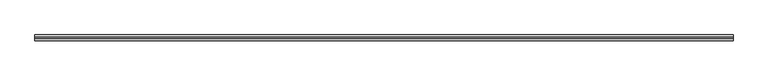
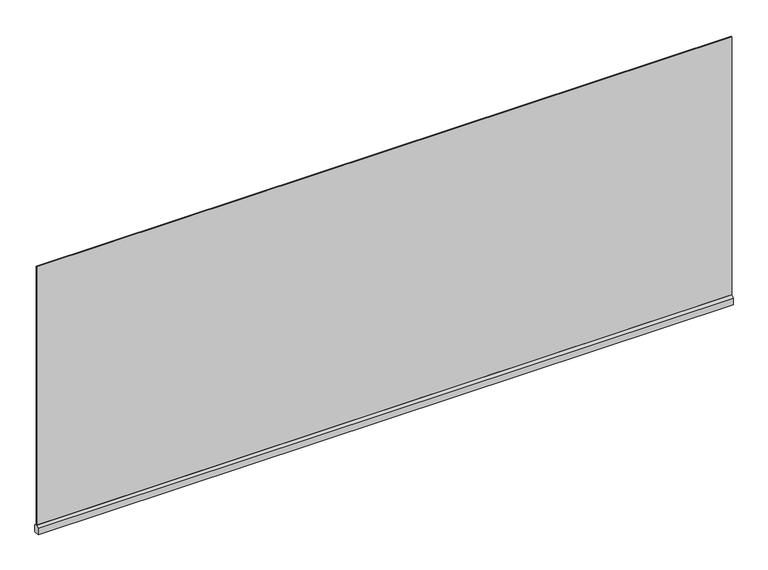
"""IFC4 building model written with IfcOpenShell, lengths in millimetres: proxy geometry, Renson_Amani_Fixscreen : Renson_Amani_Fixscreen."""

import ifcopenshell
import ifcopenshell.guid

model = None  # the IFC model being written
_history = None  # IfcOwnerHistory: only IFC2X3 demands one
_inside = {}  # id of a spatial element -> (the spatial element, [elements in it])
_under = {}  # id of a project, library or spatial element -> (it, [spatial elements below it])
_declared = {}  # id of a project -> (the project, [libraries it declares])
_typed = {}  # id of a type object -> (the type object, [elements of that type])
_made_of = {}  # id of a material, layer set ... -> (it, [elements and type objects made of it])


def new_model(schema):
    """Start an empty IFC model of exactly this schema.

    Asked for "IFC4X3", IfcOpenShell would pick the latest addendum, in which some entities
    have other attributes; the version numbers below select the first issue.
    IFC2X3 requires an IfcOwnerHistory on every rooted entity: one is made here for all.
    """
    global model, _history
    if schema == "IFC4X3":
        model = ifcopenshell.file(schema_version=(4, 3, 0, 0))
    else:
        model = ifcopenshell.file(schema=schema)
    _inside.clear()
    _under.clear()
    _declared.clear()
    _typed.clear()
    _made_of.clear()
    _history = None
    if model.schema == "IFC2X3":
        org = make("IfcOrganization", Name="unknown")
        user = make(
            "IfcPersonAndOrganization",
            ThePerson=make("IfcPerson", FamilyName="unknown"),
            TheOrganization=org,
        )
        app = make(
            "IfcApplication",
            ApplicationDeveloper=org,
            Version="unknown",
            ApplicationFullName="unknown",
            ApplicationIdentifier="unknown",
        )
        _history = make(
            "IfcOwnerHistory",
            OwningUser=user,
            OwningApplication=app,
            ChangeAction="ADDED",
            CreationDate=0,
        )
    return model


def make(cls, **values):
    """One entity of the class cls with the attributes given. An attribute that is None is left unset."""
    return model.create_entity(
        cls, **{name: value for name, value in values.items() if value is not None}
    )


def rooted(cls, **values):
    """An entity with a GlobalId (a new one), such as an element, a storey or a relation."""
    return make(cls, GlobalId=ifcopenshell.guid.new(), OwnerHistory=_history, **values)


def si_unit(unit_type, name, prefix=None):
    """IfcSIUnit, for example si_unit("LENGTHUNIT", "METRE", prefix="MILLI")."""
    return make("IfcSIUnit", UnitType=unit_type, Prefix=prefix, Name=name)


def assignment(units):
    """IfcUnitAssignment: the units of a project."""
    return None if units is None else make("IfcUnitAssignment", Units=units)


def point(xyz):
    """IfcCartesianPoint."""
    return None if xyz is None else make("IfcCartesianPoint", Coordinates=xyz)


def direction(xyz):
    """IfcDirection."""
    return None if xyz is None else make("IfcDirection", DirectionRatios=xyz)


def frame(location, z_axis=None, x_axis=None):
    """IfcAxis2Placement3D, a coordinate frame: its origin and axes. An axis left out is left unset."""
    return make(
        "IfcAxis2Placement3D",
        Location=point(location),
        Axis=direction(z_axis),
        RefDirection=direction(x_axis),
    )


def origin():
    """The frame at (0, 0, 0) with its axes left unset."""
    return frame((0.0, 0.0, 0.0))


def place(relative_to, where):
    """IfcLocalPlacement: puts the frame where relative to a parent placement (None: the world)."""
    return make(
        "IfcLocalPlacement", PlacementRelTo=relative_to, RelativePlacement=where
    )


def context(
    kind, dimensions, precision=None, world=None, true_north=None, identifier=None
):
    """IfcGeometricRepresentationContext, for example the 3D "Model" context."""
    return make(
        "IfcGeometricRepresentationContext",
        ContextIdentifier=identifier,
        ContextType=kind,
        CoordinateSpaceDimension=dimensions,
        Precision=precision,
        WorldCoordinateSystem=world,
        TrueNorth=true_north,
    )


def project(units=None, contexts=None):
    """IfcProject with its units and contexts."""
    return rooted(
        "IfcProject",
        Name="project",
        RepresentationContexts=contexts,
        UnitsInContext=assignment(units),
    )


def spatial(cls, under=None, at=None, **own):
    """A site, building, storey or space (cls), placed at a placement, below another one or the project."""
    s = rooted(cls, ObjectPlacement=at, **own)
    if under is not None:
        _under.setdefault(under.id(), (under, []))[1].append(s)
    return s


def polyline(points):
    """IfcPolyline through the points."""
    return make("IfcPolyline", Points=[point(p) for p in points])


def outline(outer, holes=None, kind="AREA"):
    """IfcArbitraryClosedProfileDef: a profile drawn as a closed curve; with holes, ...WithVoids."""
    if holes is None:
        return make("IfcArbitraryClosedProfileDef", ProfileType=kind, OuterCurve=outer)
    return make(
        "IfcArbitraryProfileDefWithVoids",
        ProfileType=kind,
        OuterCurve=outer,
        InnerCurves=holes,
    )


def extrude(swept, where, along, depth):
    """IfcExtrudedAreaSolid: the profile swept, set in the frame where, extruded along a direction by depth."""
    return make(
        "IfcExtrudedAreaSolid",
        SweptArea=swept,
        Position=where,
        ExtrudedDirection=direction(along),
        Depth=depth,
    )


def shape(context_of_items, identifier, shape_type, items):
    """IfcShapeRepresentation: the items that make up one representation, for example the "Body"."""
    return make(
        "IfcShapeRepresentation",
        ContextOfItems=context_of_items,
        RepresentationIdentifier=identifier,
        RepresentationType=shape_type,
        Items=items,
    )


def source(mapping_origin, context_of_items, identifier, shape_type, items):
    """IfcRepresentationMap: a shape defined once, which mapped items show again and again."""
    return make(
        "IfcRepresentationMap",
        MappingOrigin=mapping_origin,
        MappedRepresentation=shape(context_of_items, identifier, shape_type, items),
    )


def transform(
    local_origin,
    x_axis=None,
    y_axis=None,
    z_axis=None,
    scale=None,
    scale2=None,
    scale3=None,
    uniform=True,
):
    """IfcCartesianTransformationOperator3D, or its non-uniform kind. x_axis, y_axis, z_axis: its Axis1, 2, 3."""
    if uniform:
        return make(
            "IfcCartesianTransformationOperator3D",
            Axis1=direction(x_axis),
            Axis2=direction(y_axis),
            LocalOrigin=point(local_origin),
            Scale=scale,
            Axis3=direction(z_axis),
        )
    return make(
        "IfcCartesianTransformationOperator3DnonUniform",
        Axis1=direction(x_axis),
        Axis2=direction(y_axis),
        LocalOrigin=point(local_origin),
        Scale=scale,
        Axis3=direction(z_axis),
        Scale2=scale2,
        Scale3=scale3,
    )


def mapped(mapping_source, mapping_target):
    """IfcMappedItem: shows the shape of a source again, moved by a transform."""
    return make(
        "IfcMappedItem", MappingSource=mapping_source, MappingTarget=mapping_target
    )


def made_of(thing, what):
    """Note that an element or type object is made of a material, layer set ...; save() writes the relation."""
    if what is not None:
        _made_of.setdefault(what.id(), (what, []))[1].append(thing)
    return thing


def element(
    cls,
    number,
    at=None,
    inside=None,
    cuts=None,
    type_object=None,
    material=None,
    context=None,
    identifier="Body",
    shape_type=None,
    held_by="IfcProductDefinitionShape",
    body=None,
    shapes=None,
    **own,
):
    """One element of the class cls, such as IfcWall. Its Tag is "e" and its number.

    at: its placement. inside: the storey or other place that contains it. cuts: it is an
    opening in that element (IfcRelVoidsElement). A single representation is given by context,
    identifier, shape_type and body (its items); several are given by shapes. held_by: the class
    of the entity that holds the representations. save() writes the other relations.
    """
    e = rooted(cls, Tag="e%d" % number, ObjectPlacement=at, **own)
    if body is not None:
        shapes = [shape(context, identifier, shape_type, body)]
    if shapes is not None:
        e.Representation = make(held_by, Representations=shapes)
    if inside is not None:
        _inside.setdefault(inside.id(), (inside, []))[1].append(e)
    if cuts is not None:
        rooted(
            "IfcRelVoidsElement", RelatingBuildingElement=cuts, RelatedOpeningElement=e
        )
    if type_object is not None:
        _typed.setdefault(type_object.id(), (type_object, []))[1].append(e)
    return made_of(e, material)


def aggregate(whole, parts):
    """IfcRelAggregates: a whole, such as a stair, and the parts it consists of."""
    return rooted("IfcRelAggregates", RelatingObject=whole, RelatedObjects=parts)


def save(model, path):
    """Write the relations noted so far, then the file.

    IfcRelAggregates (storeys below a building ...), IfcRelContainedInSpatialStructure (elements
    in a storey), IfcRelDefinesByType, IfcRelAssociatesMaterial and IfcRelDeclares: one each for
    every whole, place, type object, material and project.
    """
    for whole, parts in _under.values():
        aggregate(whole, parts)
    for where, things in _inside.values():
        rooted(
            "IfcRelContainedInSpatialStructure",
            RelatedElements=things,
            RelatingStructure=where,
        )
    for kind, things in _typed.values():
        rooted("IfcRelDefinesByType", RelatedObjects=things, RelatingType=kind)
    for what, things in _made_of.values():
        rooted("IfcRelAssociatesMaterial", RelatedObjects=things, RelatingMaterial=what)
    for by, libraries in _declared.values():
        rooted("IfcRelDeclares", RelatingContext=by, RelatedDefinitions=libraries)
    model.write(path)


def generic_models_899c330c(model_context):
    return source(origin(), model_context, "Body", "SweptSolid", [
        extrude(outline(polyline([(-15.0, 750.0), (-15.0, 787.0), (-1.5, 796.0), (1.5, 796.0), (15.0, 787.0), (15.0, 750.0), (-15.0, 750.0)])), frame((-1850.0, 0.0, 0.0), z_axis=(1.0, 0.0, 0.0), x_axis=(0.0, 1.0, 0.0)), (0.0, 0.0, 1.0), 3700.0),
        extrude(outline(polyline([(1850.0, 1.5), (1850.0, -1.5), (-1850.0, -1.5), (-1850.0, 1.5), (1850.0, 1.5)])), frame((0.0, 0.0, 796.0), z_axis=(0.0, 0.0, 1.0), x_axis=(1.0, 0.0, 0.0)), (0.0, 0.0, 1.0), 1454.0),
    ])


if __name__ == "__main__":
    model = new_model("IFC4")
    model_context = context("Model", 3, world=origin())
    ifc_project = project(units=[si_unit("LENGTHUNIT", "METRE", prefix="MILLI")], contexts=[model_context])
    site = spatial("IfcSite", under=ifc_project)
    building = spatial("IfcBuilding", under=site)
    placement = place(None, origin())
    generic_models_shape = generic_models_899c330c(model_context)
    element("IfcBuildingElementProxy", 1, Name="Renson_Amani_Fixscreen : Renson_Amani_Fixscreen", ObjectType="Renson_Amani_Fixscreen : Renson_Amani_Fixscreen", at=placement, inside=building, context=model_context, shape_type="MappedRepresentation", body=[
        mapped(generic_models_shape, transform((0.0, 0.0, 0.0), x_axis=(1.0, 0.0, 0.0), y_axis=(0.0, 1.0, 0.0), z_axis=(0.0, 0.0, 1.0))),
    ])
    save(model, "model.ifc")
